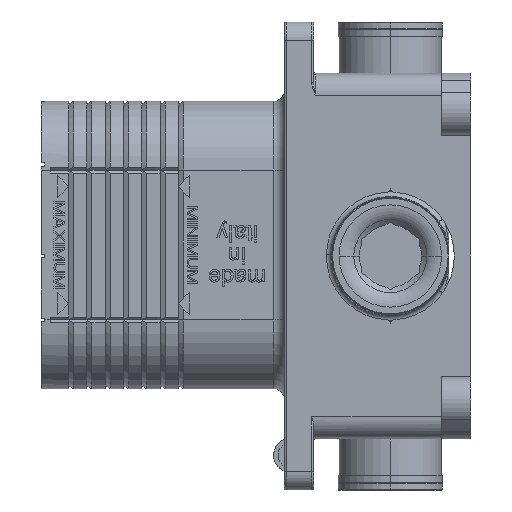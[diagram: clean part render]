
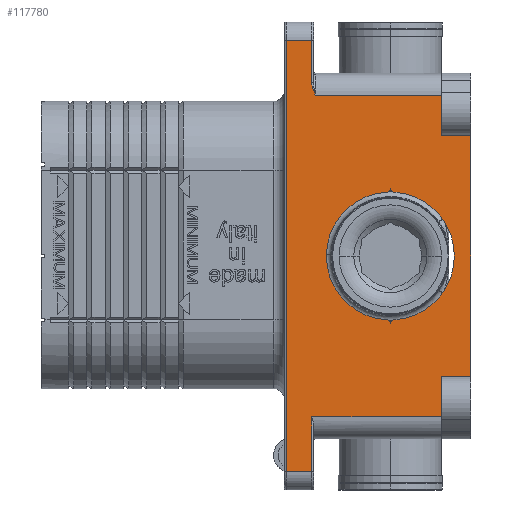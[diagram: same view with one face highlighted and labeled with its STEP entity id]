
A CAD part, left-side view. The second image highlights one B-rep face of the part: STEP entity #117780.
In plain terms, the highlighted planar face has unit normal (-1, 0, 0).
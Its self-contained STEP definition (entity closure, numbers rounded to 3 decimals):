
#59903=DIRECTION('',(0.,1.,0.));
#59904=VECTOR('',#59903,35.5);
#59905=CARTESIAN_POINT('',(-30.,-14.,-44.));
#59906=LINE('',#59905,#59904);
#59907=DIRECTION('',(0.,0.,-1.));
#59908=VECTOR('',#59907,15.);
#59909=CARTESIAN_POINT('',(-30.,21.5,-44.));
#59910=LINE('',#59909,#59908);
#59911=DIRECTION('',(0.,-1.,0.));
#59912=VECTOR('',#59911,7.);
#59913=CARTESIAN_POINT('',(-30.,28.5,-59.));
#59914=LINE('',#59913,#59912);
#59915=DIRECTION('',(0.,0.,-1.));
#59916=VECTOR('',#59915,118.);
#59917=CARTESIAN_POINT('',(-30.,28.5,59.));
#59918=LINE('',#59917,#59916);
#59919=DIRECTION('',(0.,0.,-1.));
#59920=VECTOR('',#59919,11.536);
#59921=CARTESIAN_POINT('',(-30.,21.5,59.));
#59922=LINE('',#59921,#59920);
#59923=CARTESIAN_POINT('',(-30.,21.5,
47.464));
#59924=CARTESIAN_POINT('',(-30.,21.5,
47.318));
#59925=CARTESIAN_POINT('',(-30.,21.482,
47.004));
#59926=CARTESIAN_POINT('',(-30.,21.392,
46.474));
#59927=CARTESIAN_POINT('',(-30.,21.235,
45.883));
#59928=CARTESIAN_POINT('',(-30.,21.085,
45.449));
#59929=CARTESIAN_POINT('',(-30.,21.,45.221));
#59931=DIRECTION('',(0.,-1.,0.));
#59932=VECTOR('',#59931,34.5);
#59933=CARTESIAN_POINT('',(-30.,20.5,44.));
#59934=LINE('',#59933,#59932);
#59935=DIRECTION('',(0.,-1.,0.));
#59936=VECTOR('',#59935,8.);
#59937=CARTESIAN_POINT('',(-30.,-14.,34.5));
#59938=LINE('',#59937,#59936);
#59939=DIRECTION('',(0.,1.,0.));
#59940=VECTOR('',#59939,8.);
#59941=CARTESIAN_POINT('',(-30.,-22.,-34.5));
#59942=LINE('',#59941,#59940);
#59943=CARTESIAN_POINT('',(-30.,-1.,18.473));
#59944=DIRECTION('',(-1.,0.,0.));
#59945=DIRECTION('',(0.,1.,0.));
#59946=AXIS2_PLACEMENT_3D('',#59943,#59944,#59945);
#59948=CARTESIAN_POINT('',(-30.,1.,18.473));
#59949=DIRECTION('',(-1.,0.,0.));
#59950=DIRECTION('',(0.,-0.054,-0.999));
#59951=AXIS2_PLACEMENT_3D('',#59948,#59949,#59950);
#59953=CARTESIAN_POINT('',(-30.,1.,-18.473));
#59954=DIRECTION('',(-1.,0.,0.));
#59955=DIRECTION('',(0.,-1.,0.));
#59956=AXIS2_PLACEMENT_3D('',#59953,#59954,#59955);
#59958=CARTESIAN_POINT('',(-30.,-1.,-18.473));
#59959=DIRECTION('',(-1.,0.,0.));
#59960=DIRECTION('',(0.,0.054,0.999));
#59961=AXIS2_PLACEMENT_3D('',#59958,#59959,#59960);
#60091=DIRECTION('',(0.,0.,1.));
#60092=VECTOR('',#60091,9.5);
#60093=CARTESIAN_POINT('',(-30.,-14.,-44.));
#60094=LINE('',#60093,#60092);
#60205=DIRECTION('',(0.,0.,1.));
#60206=VECTOR('',#60205,69.);
#60207=CARTESIAN_POINT('',(-30.,-22.,-34.5));
#60208=LINE('',#60207,#60206);
#60531=CARTESIAN_POINT('',(-30.,21.,45.221));
#60532=CARTESIAN_POINT('',(-30.,20.951,45.091));
#60533=CARTESIAN_POINT('',(-30.,20.848,44.828));
#60534=CARTESIAN_POINT('',(-30.,20.679,44.42));
#60535=CARTESIAN_POINT('',(-30.,20.56,44.141));
#60536=CARTESIAN_POINT('',(-30.,20.5,44.));
#60669=DIRECTION('',(0.,-1.,0.));
#60670=VECTOR('',#60669,7.);
#60671=CARTESIAN_POINT('',(-30.,28.5,59.));
#60672=LINE('',#60671,#60670);
#62066=DIRECTION('',(0.,0.,1.));
#62067=VECTOR('',#62066,9.5);
#62068=CARTESIAN_POINT('',(-30.,-14.,34.5));
#62069=LINE('',#62068,#62067);
#94563=CARTESIAN_POINT('',(-30.,0.,0.));
#94564=DIRECTION('',(1.,0.,0.));
#94565=DIRECTION('',(0.,0.054,-0.999));
#94566=AXIS2_PLACEMENT_3D('',#94563,#94564,#94565);
#94589=CARTESIAN_POINT('',(-30.,0.,0.));
#94590=DIRECTION('',(1.,0.,0.));
#94591=DIRECTION('',(0.,-0.054,0.999));
#94592=AXIS2_PLACEMENT_3D('',#94589,#94590,#94591);
#104596=CARTESIAN_POINT('',(-30.,-0.946,-17.474));
#104598=VERTEX_POINT('',#104596);
#104601=CARTESIAN_POINT('',(-30.,-0.946,17.474));
#104603=VERTEX_POINT('',#104601);
#105403=CARTESIAN_POINT('',(-30.,-14.,-44.));
#105405=VERTEX_POINT('',#105403);
#105406=CARTESIAN_POINT('',(-30.,-14.,44.));
#105408=VERTEX_POINT('',#105406);
#105412=CARTESIAN_POINT('',(-30.,-22.,-34.5));
#105413=CARTESIAN_POINT('',(-30.,-22.,34.5));
#105414=VERTEX_POINT('',#105412);
#105415=VERTEX_POINT('',#105413);
#105416=CARTESIAN_POINT('',(-30.,-14.,34.5));
#105417=VERTEX_POINT('',#105416);
#105418=CARTESIAN_POINT('',(-30.,-14.,-34.5));
#105419=VERTEX_POINT('',#105418);
#105685=CARTESIAN_POINT('',(-30.,0.946,-17.474));
#105687=VERTEX_POINT('',#105685);
#105692=CARTESIAN_POINT('',(-30.,0.946,17.474));
#105694=VERTEX_POINT('',#105692);
#107125=CARTESIAN_POINT('',(-30.,28.5,-59.));
#107126=VERTEX_POINT('',#107125);
#107129=CARTESIAN_POINT('',(-30.,28.5,59.));
#107130=VERTEX_POINT('',#107129);
#107208=CARTESIAN_POINT('',(-30.,21.5,59.));
#107209=VERTEX_POINT('',#107208);
#107210=CARTESIAN_POINT('',(-30.,21.5,
47.464));
#107211=VERTEX_POINT('',#107210);
#107215=CARTESIAN_POINT('',(-30.,20.5,44.));
#107217=VERTEX_POINT('',#107215);
#107220=VERTEX_POINT('',#59929);
#107282=CARTESIAN_POINT('',(-30.,21.5,-59.));
#107283=VERTEX_POINT('',#107282);
#107286=CARTESIAN_POINT('',(-30.,21.5,-44.));
#107287=VERTEX_POINT('',#107286);
#109628=CARTESIAN_POINT('',(-30.,0.,-18.473));
#109630=VERTEX_POINT('',#109628);
#109635=CARTESIAN_POINT('',(-30.,0.,18.473));
#109637=VERTEX_POINT('',#109635);
#117733=CARTESIAN_POINT('',(-30.,-22.,-44.));
#117734=DIRECTION('',(-1.,0.,0.));
#117735=DIRECTION('',(0.,0.,1.));
#117736=AXIS2_PLACEMENT_3D('',#117733,#117734,#117735);
#117737=PLANE('',#117736);
#117739=ORIENTED_EDGE('',*,*,#117738,.T.);
#117741=ORIENTED_EDGE('',*,*,#117740,.T.);
#117742=ORIENTED_EDGE('',*,*,#117688,.F.);
#117743=ORIENTED_EDGE('',*,*,#117724,.F.);
#117745=ORIENTED_EDGE('',*,*,#117744,.T.);
#117747=ORIENTED_EDGE('',*,*,#117746,.T.);
#117749=ORIENTED_EDGE('',*,*,#117748,.T.);
#117751=ORIENTED_EDGE('',*,*,#117750,.T.);
#117753=ORIENTED_EDGE('',*,*,#117752,.T.);
#117755=ORIENTED_EDGE('',*,*,#117754,.F.);
#117757=ORIENTED_EDGE('',*,*,#117756,.T.);
#117759=ORIENTED_EDGE('',*,*,#117758,.F.);
#117761=ORIENTED_EDGE('',*,*,#117760,.T.);
#117763=ORIENTED_EDGE('',*,*,#117762,.F.);
#117764=EDGE_LOOP('',(#117739,#117741,#117742,#117743,#117745,#117747,#117749,
#117751,#117753,#117755,#117757,#117759,#117761,#117763));
#117765=FACE_OUTER_BOUND('',#117764,.F.);
#117767=ORIENTED_EDGE('',*,*,#117766,.F.);
#117769=ORIENTED_EDGE('',*,*,#117768,.F.);
#117771=ORIENTED_EDGE('',*,*,#117770,.F.);
#117773=ORIENTED_EDGE('',*,*,#117772,.F.);
#117775=ORIENTED_EDGE('',*,*,#117774,.F.);
#117777=ORIENTED_EDGE('',*,*,#117776,.F.);
#117778=EDGE_LOOP('',(#117767,#117769,#117771,#117773,#117775,#117777));
#117779=FACE_BOUND('',#117778,.F.);
#117780=ADVANCED_FACE('',(#117765,#117779),#117737,.T.);
#59930=B_SPLINE_CURVE_WITH_KNOTS('',3,(#59923,#59924,#59925,#59926,#59927,
#59928,#59929),.UNSPECIFIED.,.F.,.F.,(4,1,1,1,4),(0.,0.25,0.5,0.75,
1.),.UNSPECIFIED.);
#59947=CIRCLE('',#59946,1.);
#59952=CIRCLE('',#59951,1.);
#59957=CIRCLE('',#59956,1.);
#59962=CIRCLE('',#59961,1.);
#60537=B_SPLINE_CURVE_WITH_KNOTS('',3,(#60531,#60532,#60533,#60534,#60535,
#60536),.UNSPECIFIED.,.F.,.F.,(4,1,1,4),(0.,0.333,
0.667,1.),.UNSPECIFIED.);
#94567=CIRCLE('',#94566,17.5);
#94593=CIRCLE('',#94592,17.5);
#117688=EDGE_CURVE('',#107126,#107283,#59914,.T.);
#117724=EDGE_CURVE('',#107130,#107126,#59918,.T.);
#117738=EDGE_CURVE('',#105405,#107287,#59906,.T.);
#117740=EDGE_CURVE('',#107287,#107283,#59910,.T.);
#117744=EDGE_CURVE('',#107130,#107209,#60672,.T.);
#117746=EDGE_CURVE('',#107209,#107211,#59922,.T.);
#117748=EDGE_CURVE('',#107211,#107220,#59930,.T.);
#117750=EDGE_CURVE('',#107220,#107217,#60537,.T.);
#117752=EDGE_CURVE('',#107217,#105408,#59934,.T.);
#117754=EDGE_CURVE('',#105417,#105408,#62069,.T.);
#117756=EDGE_CURVE('',#105417,#105415,#59938,.T.);
#117758=EDGE_CURVE('',#105414,#105415,#60208,.T.);
#117760=EDGE_CURVE('',#105414,#105419,#59942,.T.);
#117762=EDGE_CURVE('',#105405,#105419,#60094,.T.);
#117766=EDGE_CURVE('',#109637,#104603,#59947,.T.);
#117768=EDGE_CURVE('',#105694,#109637,#59952,.T.);
#117770=EDGE_CURVE('',#105687,#105694,#94567,.T.);
#117772=EDGE_CURVE('',#109630,#105687,#59957,.T.);
#117774=EDGE_CURVE('',#104598,#109630,#59962,.T.);
#117776=EDGE_CURVE('',#104603,#104598,#94593,.T.);
